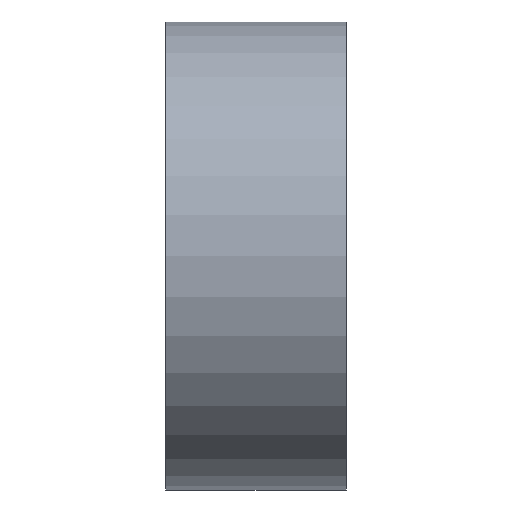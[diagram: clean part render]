
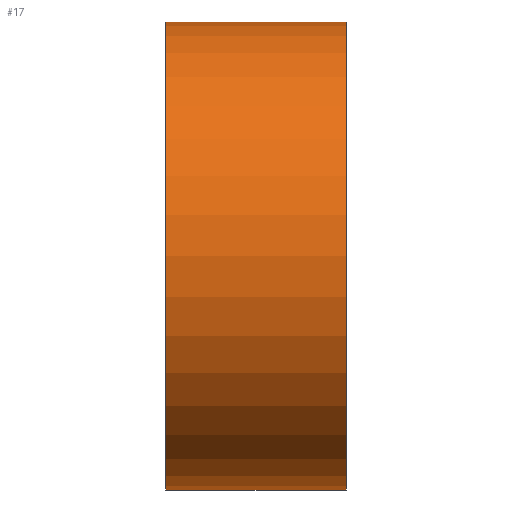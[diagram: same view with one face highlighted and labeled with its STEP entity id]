
A CAD part, front view. The second image highlights one B-rep face of the part: STEP entity #17.
In plain terms, the highlighted cylindrical face has radius 7.78 mm (diameter 15.56 mm), a full revolution.
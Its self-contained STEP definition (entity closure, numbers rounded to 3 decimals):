
#17 = ADVANCED_FACE('',(#18),#32,.T.);
#18 = FACE_BOUND('',#19,.F.);
#19 = EDGE_LOOP('',(#20,#50,#77,#78));
#20 = ORIENTED_EDGE('',*,*,#21,.T.);
#21 = EDGE_CURVE('',#22,#24,#26,.T.);
#22 = VERTEX_POINT('',#23);
#23 = CARTESIAN_POINT('',(26.4,7.78,0.));
#24 = VERTEX_POINT('',#25);
#25 = CARTESIAN_POINT('',(32.4,7.78,0.));
#26 = SEAM_CURVE('',#27,(#31,#43),.PCURVE_S1.);
#27 = LINE('',#28,#29);
#28 = CARTESIAN_POINT('',(26.4,7.78,0.));
#29 = VECTOR('',#30,1.);
#30 = DIRECTION('',(1.,0.,0.));
#31 = PCURVE('',#32,#37);
#32 = CYLINDRICAL_SURFACE('',#33,7.78);
#33 = AXIS2_PLACEMENT_3D('',#34,#35,#36);
#34 = CARTESIAN_POINT('',(26.4,0.,0.));
#35 = DIRECTION('',(-1.,-0.,-0.));
#36 = DIRECTION('',(0.,1.,0.));
#37 = DEFINITIONAL_REPRESENTATION('',(#38),#42);
#38 = LINE('',#39,#40);
#39 = CARTESIAN_POINT('',(-0.,0.));
#40 = VECTOR('',#41,1.);
#41 = DIRECTION('',(-0.,-1.));
#42 = ( GEOMETRIC_REPRESENTATION_CONTEXT(2) 
PARAMETRIC_REPRESENTATION_CONTEXT() REPRESENTATION_CONTEXT('2D SPACE',''
  ) );
#43 = PCURVE('',#32,#44);
#44 = DEFINITIONAL_REPRESENTATION('',(#45),#49);
#45 = LINE('',#46,#47);
#46 = CARTESIAN_POINT('',(-6.283,0.));
#47 = VECTOR('',#48,1.);
#48 = DIRECTION('',(-0.,-1.));
#49 = ( GEOMETRIC_REPRESENTATION_CONTEXT(2) 
PARAMETRIC_REPRESENTATION_CONTEXT() REPRESENTATION_CONTEXT('2D SPACE',''
  ) );
#50 = ORIENTED_EDGE('',*,*,#51,.T.);
#51 = EDGE_CURVE('',#24,#24,#52,.T.);
#52 = SURFACE_CURVE('',#53,(#58,#65),.PCURVE_S1.);
#53 = CIRCLE('',#54,7.78);
#54 = AXIS2_PLACEMENT_3D('',#55,#56,#57);
#55 = CARTESIAN_POINT('',(32.4,0.,0.));
#56 = DIRECTION('',(1.,0.,0.));
#57 = DIRECTION('',(0.,1.,0.));
#58 = PCURVE('',#32,#59);
#59 = DEFINITIONAL_REPRESENTATION('',(#60),#64);
#60 = LINE('',#61,#62);
#61 = CARTESIAN_POINT('',(-0.,-6.));
#62 = VECTOR('',#63,1.);
#63 = DIRECTION('',(-1.,0.));
#64 = ( GEOMETRIC_REPRESENTATION_CONTEXT(2) 
PARAMETRIC_REPRESENTATION_CONTEXT() REPRESENTATION_CONTEXT('2D SPACE',''
  ) );
#65 = PCURVE('',#66,#71);
#66 = PLANE('',#67);
#67 = AXIS2_PLACEMENT_3D('',#68,#69,#70);
#68 = CARTESIAN_POINT('',(32.4,0.,0.));
#69 = DIRECTION('',(1.,0.,0.));
#70 = DIRECTION('',(-0.,0.,1.));
#71 = DEFINITIONAL_REPRESENTATION('',(#72),#76);
#72 = CIRCLE('',#73,7.78);
#73 = AXIS2_PLACEMENT_2D('',#74,#75);
#74 = CARTESIAN_POINT('',(0.,0.));
#75 = DIRECTION('',(0.,-1.));
#76 = ( GEOMETRIC_REPRESENTATION_CONTEXT(2) 
PARAMETRIC_REPRESENTATION_CONTEXT() REPRESENTATION_CONTEXT('2D SPACE',''
  ) );
#77 = ORIENTED_EDGE('',*,*,#21,.F.);
#78 = ORIENTED_EDGE('',*,*,#79,.F.);
#79 = EDGE_CURVE('',#22,#22,#80,.T.);
#80 = SURFACE_CURVE('',#81,(#86,#93),.PCURVE_S1.);
#81 = CIRCLE('',#82,7.78);
#82 = AXIS2_PLACEMENT_3D('',#83,#84,#85);
#83 = CARTESIAN_POINT('',(26.4,0.,0.));
#84 = DIRECTION('',(1.,0.,0.));
#85 = DIRECTION('',(0.,1.,0.));
#86 = PCURVE('',#32,#87);
#87 = DEFINITIONAL_REPRESENTATION('',(#88),#92);
#88 = LINE('',#89,#90);
#89 = CARTESIAN_POINT('',(-0.,0.));
#90 = VECTOR('',#91,1.);
#91 = DIRECTION('',(-1.,0.));
#92 = ( GEOMETRIC_REPRESENTATION_CONTEXT(2) 
PARAMETRIC_REPRESENTATION_CONTEXT() REPRESENTATION_CONTEXT('2D SPACE',''
  ) );
#93 = PCURVE('',#94,#99);
#94 = PLANE('',#95);
#95 = AXIS2_PLACEMENT_3D('',#96,#97,#98);
#96 = CARTESIAN_POINT('',(26.4,0.,0.));
#97 = DIRECTION('',(1.,0.,0.));
#98 = DIRECTION('',(-0.,0.,1.));
#99 = DEFINITIONAL_REPRESENTATION('',(#100),#104);
#100 = CIRCLE('',#101,7.78);
#101 = AXIS2_PLACEMENT_2D('',#102,#103);
#102 = CARTESIAN_POINT('',(0.,0.));
#103 = DIRECTION('',(0.,-1.));
#104 = ( GEOMETRIC_REPRESENTATION_CONTEXT(2) 
PARAMETRIC_REPRESENTATION_CONTEXT() REPRESENTATION_CONTEXT('2D SPACE',''
  ) );
